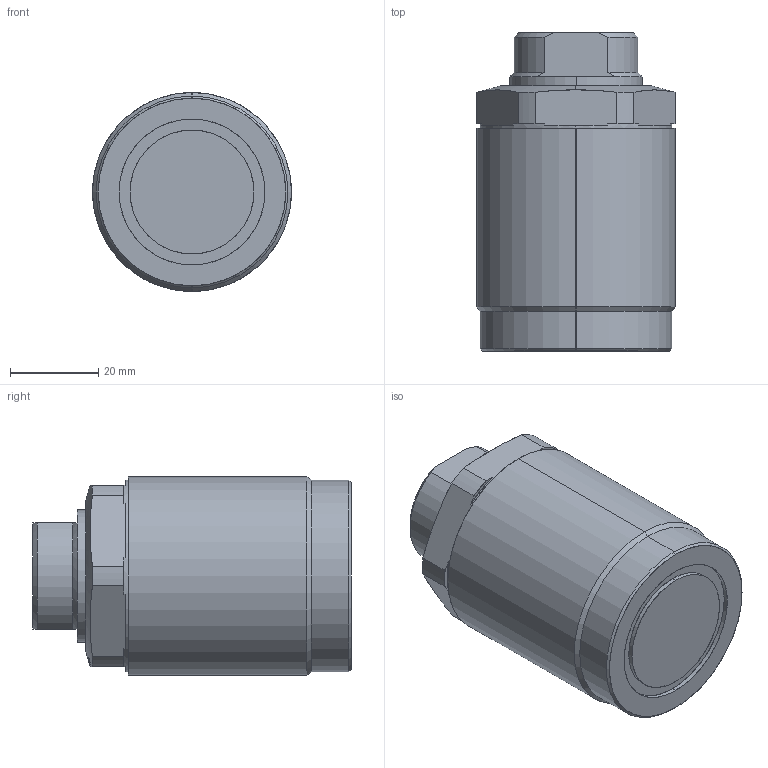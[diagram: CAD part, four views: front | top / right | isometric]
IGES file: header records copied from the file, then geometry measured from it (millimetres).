
Start section: SolidWorks IGES file using analytic representation for surfaces
Global section: file name: D:\karuppas\Clasp\3D model\Thread body cylinder\T03C-M455-M threaded pusher\T03C-M455-M threaded pusher.IGS; native system: SolidWorks 2017; preprocessor: SolidWorks 2017; author: pc; date: 220709.231409; units: millimetre
Bounding box: 45 x 72 x 45 mm (x, y, z)
Surface area: 17424.9 mm2 (no closed solid volume)
Topology: 0 solids, 0 shells, 262 faces, 3349 edges, 3347 vertices
Faces by surface type: bspline 226, revolution 36
